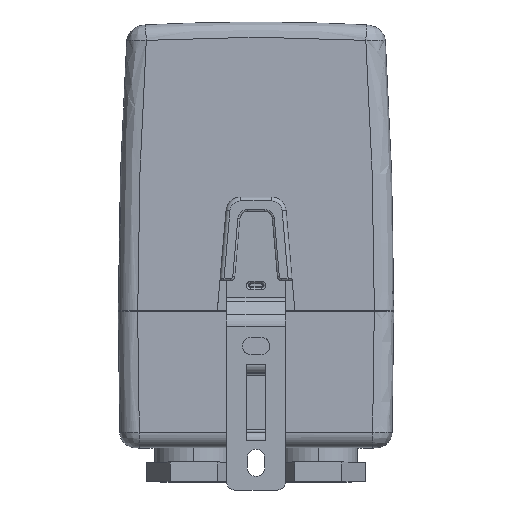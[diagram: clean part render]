
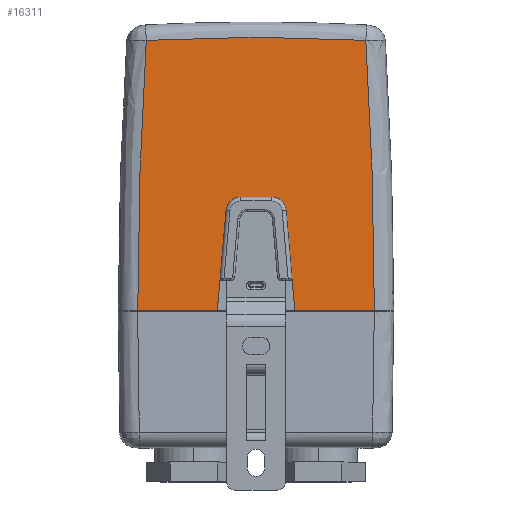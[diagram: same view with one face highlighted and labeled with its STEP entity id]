
A CAD part, left-side view. The second image highlights one B-rep face of the part: STEP entity #16311.
In plain terms, the highlighted planar face has unit normal (-1, 0, 0.004).
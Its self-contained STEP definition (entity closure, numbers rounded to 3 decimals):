
#16291=AXIS2_PLACEMENT_3D('Plane Axis2P3D',#16288,#16289,#16290) ;
#11158=CARTESIAN_POINT('Vertex',(-3.897,-30.389,0.6)) ;
#11189=CARTESIAN_POINT('Vertex',(-3.897,30.389,0.6)) ;
#13357=CARTESIAN_POINT('Vertex',(-3.786,-7.711,26.231)) ;
#13361=CARTESIAN_POINT('Control Point',(-3.786,-7.711,26.231)) ;
#13362=CARTESIAN_POINT('Control Point',(-3.781,-7.613,27.354)) ;
#13363=CARTESIAN_POINT('Control Point',(-3.776,-7.099,28.442)) ;
#13364=CARTESIAN_POINT('Control Point',(-3.772,-6.181,29.283)) ;
#13365=CARTESIAN_POINT('Control Point',(-3.77,-5.053,29.7)) ;
#13366=CARTESIAN_POINT('Control Point',(-3.77,-3.926,29.7)) ;
#13367=CARTESIAN_POINT('Vertex',(-3.77,-3.926,29.7)) ;
#13394=CARTESIAN_POINT('Line Origine',(-3.77,0.,29.7)) ;
#13398=CARTESIAN_POINT('Vertex',(-3.77,3.926,29.7)) ;
#13426=CARTESIAN_POINT('Control Point',(-3.786,7.711,26.231)) ;
#13427=CARTESIAN_POINT('Control Point',(-3.781,7.613,27.354)) ;
#13428=CARTESIAN_POINT('Control Point',(-3.776,7.099,28.442)) ;
#13429=CARTESIAN_POINT('Control Point',(-3.772,6.181,29.283)) ;
#13430=CARTESIAN_POINT('Control Point',(-3.77,5.053,29.7)) ;
#13431=CARTESIAN_POINT('Control Point',(-3.77,3.926,29.7)) ;
#13432=CARTESIAN_POINT('Vertex',(-3.786,7.711,26.231)) ;
#13542=CARTESIAN_POINT('Vertex',(-3.897,-9.954,0.6)) ;
#13547=CARTESIAN_POINT('Line Origine',(-3.841,-8.832,13.416)) ;
#13584=CARTESIAN_POINT('Line Origine',(-3.841,8.832,13.416)) ;
#13588=CARTESIAN_POINT('Vertex',(-3.897,9.954,0.6)) ;
#14161=CARTESIAN_POINT('Line Origine',(-3.897,-20.171,0.6)) ;
#14171=CARTESIAN_POINT('Line Origine',(-3.897,20.171,0.6)) ;
#15511=CARTESIAN_POINT('Vertex',(-3.595,28.193,69.966)) ;
#15531=CARTESIAN_POINT('Control Point',(-3.595,28.193,69.966)) ;
#15532=CARTESIAN_POINT('Control Point',(-3.632,28.751,61.364)) ;
#15533=CARTESIAN_POINT('Control Point',(-3.67,29.211,52.761)) ;
#15534=CARTESIAN_POINT('Control Point',(-3.707,29.582,44.153)) ;
#15535=CARTESIAN_POINT('Control Point',(-3.768,30.042,30.311)) ;
#15536=CARTESIAN_POINT('Control Point',(-3.828,30.288,16.445)) ;
#15537=CARTESIAN_POINT('Control Point',(-3.851,30.352,11.212)) ;
#15538=CARTESIAN_POINT('Control Point',(-3.874,30.385,5.948)) ;
#15539=CARTESIAN_POINT('Control Point',(-3.897,30.389,0.684)) ;
#15540=CARTESIAN_POINT('Control Point',(-3.897,30.389,0.656)) ;
#15541=CARTESIAN_POINT('Control Point',(-3.897,30.389,0.628)) ;
#15542=CARTESIAN_POINT('Control Point',(-3.897,30.389,0.6)) ;
#15813=CARTESIAN_POINT('Vertex',(-3.595,-28.193,69.966)) ;
#15817=CARTESIAN_POINT('Control Point',(-3.897,-30.389,0.6)) ;
#15818=CARTESIAN_POINT('Control Point',(-3.893,-30.388,1.543)) ;
#15819=CARTESIAN_POINT('Control Point',(-3.889,-30.387,2.487)) ;
#15820=CARTESIAN_POINT('Control Point',(-3.885,-30.384,3.437)) ;
#15821=CARTESIAN_POINT('Control Point',(-3.824,-30.333,17.357)) ;
#15822=CARTESIAN_POINT('Control Point',(-3.764,-30.072,31.267)) ;
#15823=CARTESIAN_POINT('Control Point',(-3.707,-29.646,44.17)) ;
#15824=CARTESIAN_POINT('Control Point',(-3.651,-29.03,57.069)) ;
#15825=CARTESIAN_POINT('Control Point',(-3.595,-28.193,69.966)) ;
#16288=CARTESIAN_POINT('Axis2P3D Location',(-3.9,0.,0.)) ;
#16294=CARTESIAN_POINT('Control Point',(-3.595,-28.193,69.966)) ;
#16295=CARTESIAN_POINT('Control Point',(-3.59,-9.418,71.033)) ;
#16296=CARTESIAN_POINT('Control Point',(-3.59,9.418,71.033)) ;
#16297=CARTESIAN_POINT('Control Point',(-3.595,28.193,69.966)) ;
#13395=DIRECTION('Vector Direction',(0.,-1.,0.)) ;
#13548=DIRECTION('Vector Direction',(-0.004,-0.087,-0.996)) ;
#13585=DIRECTION('Vector Direction',(0.004,-0.087,0.996)) ;
#14162=DIRECTION('Vector Direction',(0.,-1.,0.)) ;
#14172=DIRECTION('Vector Direction',(0.,-1.,0.)) ;
#16289=DIRECTION('Axis2P3D Direction',(1.,0.,-0.004)) ;
#16290=DIRECTION('Axis2P3D XDirection',(0.,-1.,0.)) ;
#13396=VECTOR('Line Direction',#13395,1.) ;
#13549=VECTOR('Line Direction',#13548,1.) ;
#13586=VECTOR('Line Direction',#13585,1.) ;
#14163=VECTOR('Line Direction',#14162,1.) ;
#14173=VECTOR('Line Direction',#14172,1.) ;
#16300=ORIENTED_EDGE('',*,*,#16298,.T.) ;
#16301=ORIENTED_EDGE('',*,*,#15543,.F.) ;
#16302=ORIENTED_EDGE('',*,*,#14175,.T.) ;
#16303=ORIENTED_EDGE('',*,*,#13590,.T.) ;
#16304=ORIENTED_EDGE('',*,*,#13434,.F.) ;
#16305=ORIENTED_EDGE('',*,*,#13400,.T.) ;
#16306=ORIENTED_EDGE('',*,*,#13369,.F.) ;
#16307=ORIENTED_EDGE('',*,*,#13551,.T.) ;
#16308=ORIENTED_EDGE('',*,*,#14165,.T.) ;
#16309=ORIENTED_EDGE('',*,*,#15826,.F.) ;
#16311=ADVANCED_FACE('PartBody',(#16310),#16292,.F.) ;
#13360=B_SPLINE_CURVE_WITH_KNOTS('',5,(#13361,#13362,#13363,#13364,#13365,#13366),.UNSPECIFIED.,.F.,.U.,(6,6),(0.,7.972),.UNSPECIFIED.) ;
#13425=B_SPLINE_CURVE_WITH_KNOTS('',5,(#13426,#13427,#13428,#13429,#13430,#13431),.UNSPECIFIED.,.F.,.U.,(6,6),(0.,7.972),.UNSPECIFIED.) ;
#15530=B_SPLINE_CURVE_WITH_KNOTS('',5,(#15531,#15532,#15533,#15534,#15535,#15536,#15537,#15538,#15539,#15540,#15541,#15542),.UNSPECIFIED.,.F.,.U.,(6,3,3,6),(30.168,91.414,128.506,128.703),.UNSPECIFIED.) ;
#15816=B_SPLINE_CURVE_WITH_KNOTS('',5,(#15817,#15818,#15819,#15820,#15821,#15822,#15823,#15824,#15825),.UNSPECIFIED.,.F.,.U.,(6,3,6),(22.483,29.277,121.091),.UNSPECIFIED.) ;
#16293=B_SPLINE_CURVE_WITH_KNOTS('',3,(#16294,#16295,#16296,#16297),.UNSPECIFIED.,.F.,.U.,(4,4),(25.257,105.354),.UNSPECIFIED.) ;
#13369=EDGE_CURVE('',#13358,#13368,#13360,.T.) ;
#13400=EDGE_CURVE('',#13399,#13368,#13397,.T.) ;
#13434=EDGE_CURVE('',#13399,#13433,#13425,.F.) ;
#13551=EDGE_CURVE('',#13358,#13543,#13550,.T.) ;
#13590=EDGE_CURVE('',#13589,#13433,#13587,.T.) ;
#14165=EDGE_CURVE('',#13543,#11159,#14164,.T.) ;
#14175=EDGE_CURVE('',#11190,#13589,#14174,.T.) ;
#15543=EDGE_CURVE('',#11190,#15512,#15530,.F.) ;
#15826=EDGE_CURVE('',#15814,#11159,#15816,.F.) ;
#16298=EDGE_CURVE('',#15814,#15512,#16293,.T.) ;
#16299=EDGE_LOOP('',(#16300,#16301,#16302,#16303,#16304,#16305,#16306,#16307,#16308,#16309)) ;
#16310=FACE_OUTER_BOUND('',#16299,.T.) ;
#13397=LINE('Line',#13394,#13396) ;
#13550=LINE('Line',#13547,#13549) ;
#13587=LINE('Line',#13584,#13586) ;
#14164=LINE('Line',#14161,#14163) ;
#14174=LINE('Line',#14171,#14173) ;
#16292=PLANE('',#16291) ;
#11159=VERTEX_POINT('',#11158) ;
#11190=VERTEX_POINT('',#11189) ;
#13358=VERTEX_POINT('',#13357) ;
#13368=VERTEX_POINT('',#13367) ;
#13399=VERTEX_POINT('',#13398) ;
#13433=VERTEX_POINT('',#13432) ;
#13543=VERTEX_POINT('',#13542) ;
#13589=VERTEX_POINT('',#13588) ;
#15512=VERTEX_POINT('',#15511) ;
#15814=VERTEX_POINT('',#15813) ;
